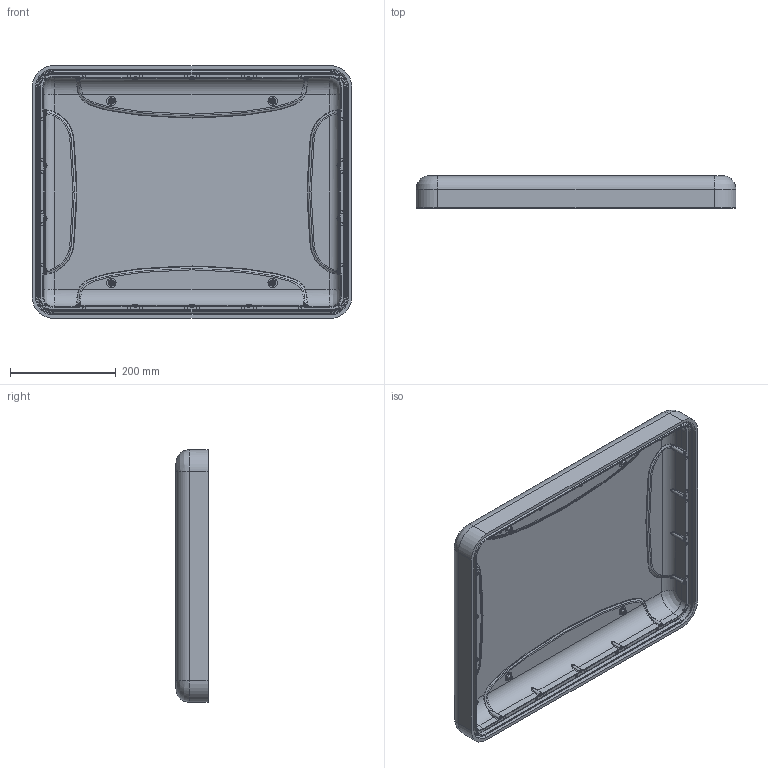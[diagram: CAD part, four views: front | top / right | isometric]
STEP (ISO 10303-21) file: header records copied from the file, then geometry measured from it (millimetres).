
FILE_DESCRIPTION (( 'STEP AP214' ), '1' );
FILE_NAME ('945_R1_ Top_INNER_SURFACE.STEP', '2022-12-07T20:07:09', ( '' ), ( '' ), 'SwSTEP 2.0', 'SolidWorks 2022', '' );
FILE_SCHEMA (( 'AUTOMOTIVE_DESIGN' ));
Length unit declared in the file: inch
Products named in the file (1): 945_R1_ Top_INNER_SURFACE
Bounding box: 604.51 x 60.61 x 477.51 mm (x, y, z)
Volume: 4521894.1 mm3; surface area: 793126 mm2
Topology: 1 solids, 1 shells, 937 faces, 2229 edges, 1358 vertices
Faces by surface type: plane 368, bspline 318, cylinder 112, torus 90, cone 49
Entity records: 52862 total; most frequent: CARTESIAN_POINT 34035, ORIENTED_EDGE 4234, DIRECTION 3196, EDGE_CURVE 2117, VERTEX_POINT 1332, AXIS2_PLACEMENT_3D 1111, EDGE_LOOP 1087, FACE_OUTER_BOUND 989
